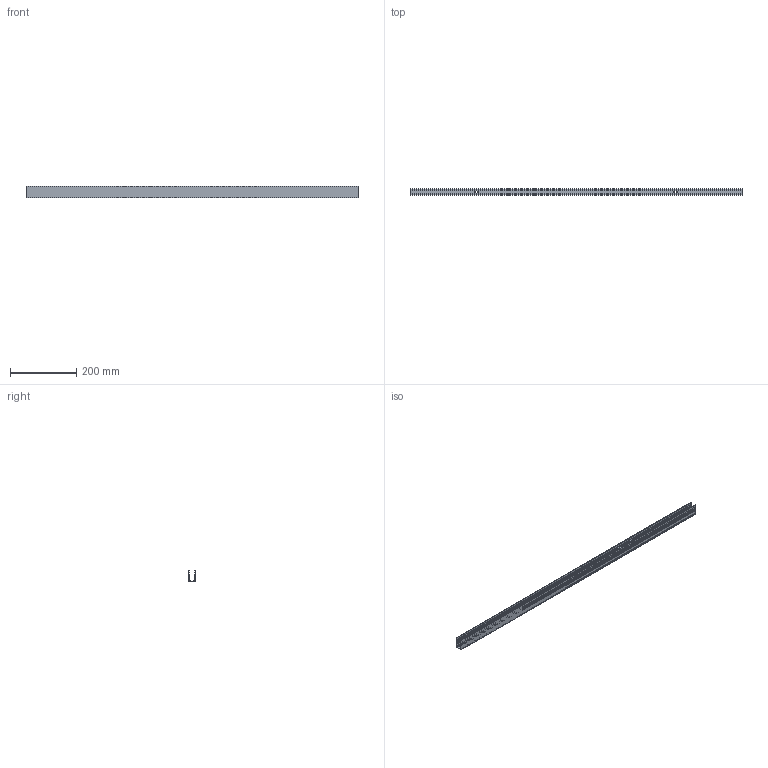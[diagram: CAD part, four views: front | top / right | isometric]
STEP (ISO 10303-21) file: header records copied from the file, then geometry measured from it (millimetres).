
FILE_DESCRIPTION(/* description */ (''),/* implementation_level */ '2;1');
FILE_NAME(/* name */ 'LF_SILICONE_STRAIGHT_PROFILE_CABLE_DUCT_L1000_R01.step',/* time_stamp */ '2026-08-18T15:18:52+02:00',/* author */ (''),/* organization */ (''),/* preprocessor_version */ 'ST-DEVELOPER v20.1',/* originating_system */ 'Autodesk Translation Framework v15.8.0.0',/* authorisation */ '');
FILE_SCHEMA (('AUTOMOTIVE_DESIGN { 1 0 10303 214 3 1 1 }'));
Length unit declared in the file: millimetre
Products named in the file (1): 2026-08-18-10-59-34-118
Bounding box: 1000 x 20.2 x 35 mm (x, y, z)
Volume: 123450.5 mm3; surface area: 198003.4 mm2
Topology: 1 solids, 1 shells, 74 faces, 216 edges, 144 vertices
Faces by surface type: plane 44, cylinder 30
Entity records: 2501 total; most frequent: CARTESIAN_POINT 435, ORIENTED_EDGE 432, DIRECTION 426, EDGE_CURVE 216, LINE 156, VECTOR 156, VERTEX_POINT 144, AXIS2_PLACEMENT_3D 135
